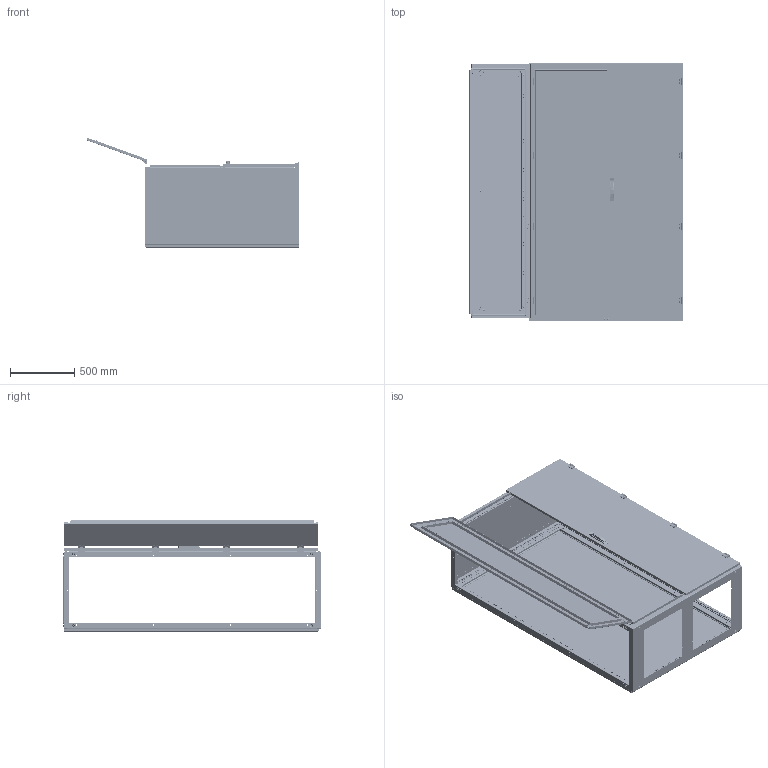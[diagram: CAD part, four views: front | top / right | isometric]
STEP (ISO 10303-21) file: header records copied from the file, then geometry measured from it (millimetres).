
FILE_DESCRIPTION (( 'STEP AP214' ), '1' );
FILE_NAME ('QA201206.step', '2011-08-11T12:14:51', ( 'Radek Veselý' ), ( 'Siemens and Partners' ), 'SwSTEP 2.0', 'SolidWorks 2006303', '' );
FILE_SCHEMA (( 'AUTOMOTIVE_DESIGN' ));
Length unit declared in the file: millimetre
Products named in the file (1): QA201206
Bounding box: 1668.78 x 2004.5 x 862.57 mm (x, y, z)
Volume: 15915411.5 mm3; surface area: 18482013.6 mm2
Topology: 158 solids, 158 shells, 9301 faces, 25775 edges, 16769 vertices
Faces by surface type: plane 4650, cylinder 3860, cone 474, bspline 270, torus 47
Entity records: 389492 total; most frequent: CARTESIAN_POINT 69587, DIRECTION 51169, ORIENTED_EDGE 50894, EDGE_CURVE 25447, AXIS2_PLACEMENT_3D 17337, VERTEX_POINT 16769, LINE 16495, VECTOR 16495
